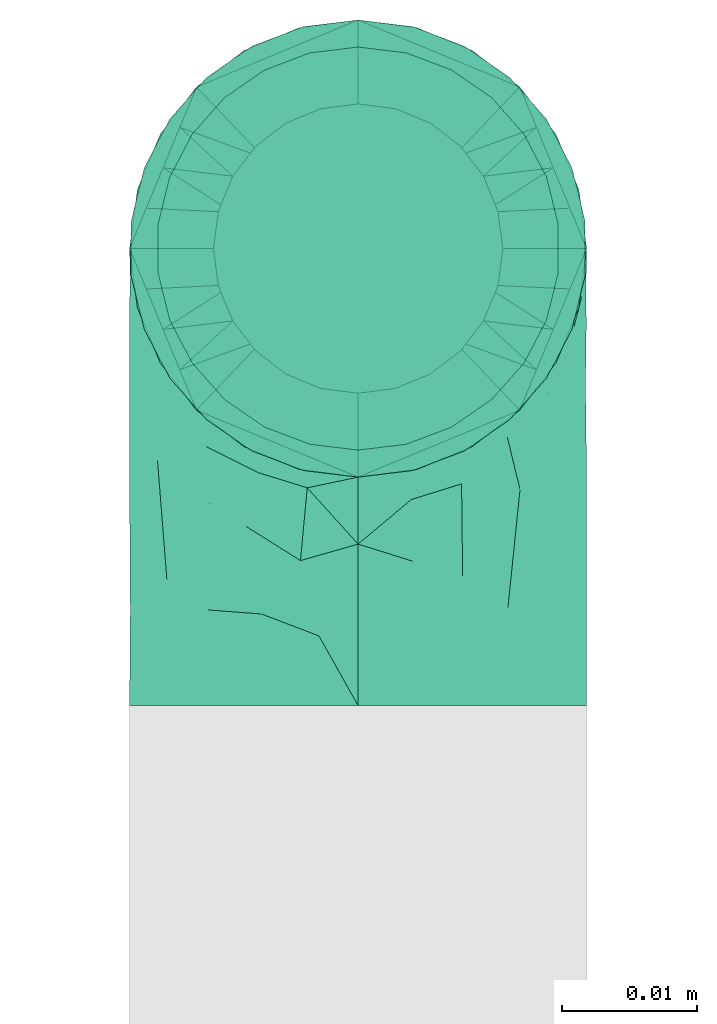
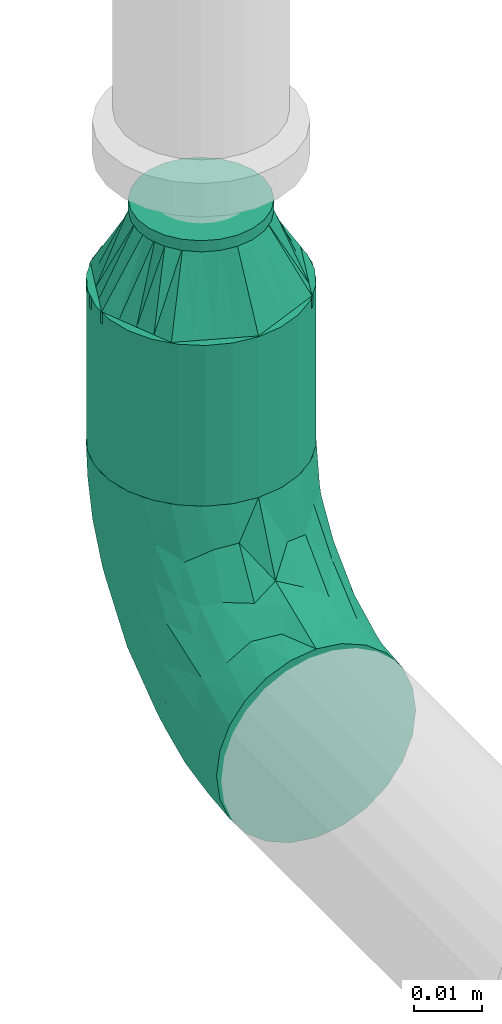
# One storey, part 18 of 31: 2 flow fittings, 1 flow segment.
"""IFC2X3 building model written with IfcOpenShell, lengths in millimetres."""

from ifc_helpers import new_model, entity, si_unit, converted_unit, derived_unit, direction, frame, origin_with_axes, origin_2d_with_axis, place, context, subcontext, project, spatial, hollow_circle, extrude, open_shell, surface_model, source, transform, mapped, type_object, element, save


model = new_model("IFC2X3")

# Units and contexts
model_context = context("Model", 3, precision=0.01, world=frame((0.0, 4.29681676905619e-09, 0.0)), true_north=direction((4.01073788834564e-13, 1.0)))
plan_context = context("Plan", 3, precision=0.01, world=frame((0.0, 4.29681676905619e-09, 0.0)), true_north=direction((4.01073788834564e-13, 1.0)))
body_context = subcontext(model_context, "Body", "Model", "MODEL_VIEW")
ifc_project = project(units=[converted_unit("PLANEANGLEUNIT", "DEGREE", entity("IfcPositiveLengthMeasure", 0.0174532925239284), si_unit("PLANEANGLEUNIT", "RADIAN"), dimensions=[0, 0, 0, 0, 0, 0, 0]), si_unit("AREAUNIT", "SQUARE_METRE"), si_unit("LENGTHUNIT", "METRE", prefix="MILLI"), si_unit("MASSUNIT", "GRAM", prefix="KILO"), si_unit("POWERUNIT", "WATT"), si_unit("PRESSUREUNIT", "PASCAL", prefix="KILO"), si_unit("FORCEUNIT", "NEWTON", prefix="KILO"), si_unit("ELECTRICVOLTAGEUNIT", "VOLT"), si_unit("ELECTRICCURRENTUNIT", "AMPERE"), si_unit("THERMODYNAMICTEMPERATUREUNIT", "DEGREE_CELSIUS"), si_unit("TIMEUNIT", "SECOND"), si_unit("VOLUMEUNIT", "CUBIC_METRE"), derived_unit("LINEARVELOCITYUNIT", [(si_unit("LENGTHUNIT", "METRE"), 1), (si_unit("TIMEUNIT", "SECOND"), -1)]), derived_unit("VOLUMETRICFLOWRATEUNIT", [(si_unit("VOLUMEUNIT", "CUBIC_METRE"), 1), (si_unit("TIMEUNIT", "SECOND"), -1)]), derived_unit("THERMALTRANSMITTANCEUNIT", [(si_unit("POWERUNIT", "WATT"), 1), (si_unit("THERMODYNAMICTEMPERATUREUNIT", "KELVIN"), -1), (si_unit("AREAUNIT", "SQUARE_METRE"), -1)]), derived_unit("SOUNDPRESSUREUNIT", [(si_unit("PRESSUREUNIT", "PASCAL"), 1)])], contexts=[model_context, plan_context])

# Site, building, storey
site_placement = place(None, frame((0.0, -4.29681676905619e-09, 0.0), z_axis=(0.0, 0.0, 1.0), x_axis=(1.0, 0.0, 0.0)))
site = spatial("IfcSite", under=ifc_project, at=site_placement, CompositionType="ELEMENT")
building_placement = place(site_placement, frame((0.0, 4.29681676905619e-09, 0.0), z_axis=(0.0, 0.0, 1.0), x_axis=(1.0, 0.0, 0.0)))
building = spatial("IfcBuilding", under=site, at=building_placement, Name="mc-building", CompositionType="ELEMENT")
storey_placement = place(building_placement, frame((0.0, 0.0, 200300.0), z_axis=(0.0, 0.0, 1.0), x_axis=(1.0, 0.0, 0.0)))
storey = spatial("IfcBuildingStorey", under=building, at=storey_placement, Name="Nivå C", CompositionType="ELEMENT", Elevation=200300.0)

# Flow fittings
pipe_fitting_type_1 = type_object("IfcPipeFittingType", Name="magi_pipe_fe_reducer_centric_short_NOR", PredefinedType="TRANSITION")
shared_shape_1 = source(origin_with_axes(), body_context, "Body", "SurfaceModel", [
    surface_model("IfcShellBasedSurfaceModel", [(14.4, 5.35, -9.26647), (14.4, 0.0, -10.7), (14.4, 2.76936, -10.33541), (14.4, 10.33541, -2.76936), (14.4, 7.56604, -7.56604), (14.4, -10.33541, -2.76936), (14.4, 9.26647, -5.35), (14.4, 0.0, 10.7), (14.4, -5.35, -9.26647), (14.4, -2.76936, -10.33541), (14.4, -7.56604, -7.56604), (14.4, -9.26647, -5.35), (14.4, 10.7, 0.0), (14.4, 10.33541, 2.76936), (14.4, 9.26647, 5.35), (14.4, 7.56604, 7.56604), (14.4, 2.76936, 10.33541), (14.4, 5.35, 9.26647), (14.4, -10.33541, 2.76936), (14.4, -7.56604, 7.56604), (14.4, -9.26647, 5.35), (14.4, -10.7, 0.0), (14.4, -2.76936, 10.33541), (14.4, -5.35, 9.26647), (12.4, 2.76936, 10.33541), (12.4, -10.33541, -2.76936), (12.4, 0.0, 10.7), (12.4, 5.35, 9.26647), (12.4, 7.56604, 7.56604), (12.4, 9.26647, 5.35), (12.4, 10.33541, 2.76936), (12.4, -10.33541, 2.76936), (12.4, -2.76936, 10.33541), (12.4, -7.56604, 7.56604), (12.4, -5.35, 9.26647), (12.4, -9.26647, 5.35), (12.4, -10.7, 0.0), (12.4, 10.33541, -2.76936), (12.4, 5.35, -9.26647), (12.4, 9.26647, -5.35), (12.4, 7.56604, -7.56604), (12.4, 2.76936, -10.33541), (12.4, -9.26647, -5.35), (12.4, -5.35, -9.26647), (12.4, -7.56604, -7.56604), (12.4, 0.0, -10.7), (12.4, -2.76936, -10.33541), (12.4, 10.7, 0.0), (-2.0, 11.9501, 11.9501), (-2.0, 0.0, 16.9), (-2.0, 4.37404, 16.32415), (-2.0, 8.45, 14.63583), (-2.0, 14.63583, 8.45), (-2.0, 16.32415, 4.37404), (-2.0, -16.32415, 4.37404), (-2.0, -8.45, 14.63583), (-2.0, -14.63583, 8.45), (-2.0, -11.9501, 11.9501), (-2.0, -4.37404, 16.32415), (-2.0, -16.32415, -4.37404), (-2.0, -16.9, 0.0), (-2.0, -8.45, -14.63583), (-2.0, 16.32415, -4.37404), (-2.0, 11.9501, -11.9501), (-2.0, 14.63583, -8.45), (-2.0, 8.45, -14.63583), (-2.0, 4.37404, -16.32415), (-2.0, 0.0, -16.9), (-2.0, -11.9501, -11.9501), (-2.0, -14.63583, -8.45), (-2.0, -4.37404, -16.32415), (-2.0, 16.9, 0.0), (0.0, 4.37404, -16.32415), (0.0, 8.45, -14.63583), (0.0, 11.9501, -11.9501), (0.0, 0.0, -16.9), (0.0, 16.32415, -4.37404), (0.0, 16.32415, 4.37404), (0.0, 14.63583, -8.45), (0.0, -8.45, -14.63583), (0.0, -4.37404, -16.32415), (0.0, -11.9501, -11.9501), (0.0, -16.32415, -4.37404), (0.0, -14.63583, -8.45), (0.0, -16.32415, 4.37404), (0.0, 16.9, 0.0), (0.0, 14.63583, 8.45), (0.0, 11.9501, 11.9501), (0.0, 4.37404, 16.32415), (0.0, 8.45, 14.63583), (0.0, 0.0, 16.9), (0.0, -14.63583, 8.45), (0.0, -16.9, 0.0), (0.0, -8.45, 14.63583), (0.0, -11.9501, 11.9501), (0.0, -4.37404, 16.32415), (12.4, 9.3625, -2.31662), (0.0, 14.42505, -5.97505), (0.0, 15.66253, -2.98753), (12.4, -6.6875, -6.94985), (0.0, -13.18758, -8.96258), (0.0, 2.98753, -15.66253), (12.4, 0.0, -9.26647), (12.4, 6.6875, -6.94985), (0.0, 8.96258, -13.18758), (12.4, -9.3625, -2.31662), (0.0, -15.66253, -2.98753), (0.0, -14.42505, -5.97505), (0.0, 5.97505, -14.42505), (0.0, -2.98753, -15.66253), (0.0, -8.96258, -13.18758), (0.0, 13.18758, -8.96258), (12.4, 8.025, -4.63324), (12.4, -2.675, -9.26647), (12.4, 2.675, -9.26647), (0.0, -5.97505, -14.42505), (12.4, -8.025, -4.63324), (12.4, -9.3625, 2.31662), (0.0, -14.42505, 5.97505), (0.0, -15.66253, 2.98753), (12.4, 6.6875, 6.94985), (0.0, 13.18758, 8.96258), (0.0, -2.98753, 15.66253), (12.4, 0.0, 9.26647), (12.4, -6.6875, 6.94985), (0.0, -8.96258, 13.18758), (12.4, 9.3625, 2.31662), (0.0, 15.66253, 2.98753), (0.0, 14.42505, 5.97505), (0.0, -5.97505, 14.42505), (0.0, 2.98753, 15.66253), (0.0, 8.96258, 13.18758), (0.0, -13.18758, 8.96258), (12.4, -8.025, 4.63324), (12.4, 2.675, 9.26647), (12.4, -2.675, 9.26647), (0.0, 5.97505, 14.42505), (12.4, 8.025, 4.63324)], [open_shell([[[0, 1, 2]], [[3, 0, 4]], [[5, 0, 3]], [[3, 4, 6]], [[7, 5, 3]], [[1, 8, 9]], [[1, 0, 8]], [[10, 5, 11]], [[5, 10, 8]], [[0, 5, 8]], [[3, 12, 13]], [[13, 14, 15]], [[13, 15, 16]], [[7, 3, 16]], [[16, 15, 17]], [[7, 18, 5]], [[18, 19, 20]], [[21, 5, 18]], [[19, 22, 23]], [[22, 19, 18]], [[7, 22, 18]], [[13, 16, 3]], [[24, 25, 26]], [[27, 25, 24]], [[28, 29, 30]], [[28, 25, 27]], [[31, 26, 25]], [[32, 33, 34]], [[33, 32, 31]], [[33, 31, 35]], [[32, 26, 31]], [[31, 25, 36]], [[30, 37, 28]], [[25, 28, 37]], [[38, 37, 39]], [[37, 38, 25]], [[38, 39, 40]], [[41, 25, 38]], [[42, 43, 44]], [[43, 42, 25]], [[43, 45, 46]], [[43, 25, 41]], [[41, 45, 43]], [[37, 30, 47]], [[25, 5, 36]], [[42, 11, 25]], [[8, 44, 43]], [[42, 44, 10]], [[9, 43, 46]], [[25, 11, 5]], [[5, 21, 36]], [[9, 8, 43]], [[10, 44, 8]], [[10, 11, 42]], [[1, 9, 46]], [[46, 45, 1]], [[41, 2, 45]], [[38, 0, 41]], [[6, 40, 39]], [[38, 40, 4]], [[3, 39, 37]], [[38, 4, 0]], [[0, 2, 41]], [[12, 3, 37]], [[6, 39, 3]], [[6, 4, 40]], [[47, 12, 37]], [[45, 2, 1]], [[30, 13, 47]], [[29, 14, 30]], [[17, 28, 27]], [[29, 28, 15]], [[16, 27, 24]], [[30, 14, 13]], [[13, 12, 47]], [[16, 17, 27]], [[15, 28, 17]], [[15, 14, 29]], [[7, 16, 24]], [[24, 26, 7]], [[32, 22, 26]], [[34, 23, 32]], [[20, 33, 35]], [[34, 33, 19]], [[18, 35, 31]], [[34, 19, 23]], [[23, 22, 32]], [[21, 18, 31]], [[20, 35, 18]], [[20, 19, 33]], [[36, 21, 31]], [[26, 22, 7]], [[48, 49, 50]], [[48, 50, 51]], [[48, 52, 53]], [[48, 53, 49]], [[49, 53, 54]], [[55, 56, 57]], [[55, 58, 49]], [[56, 55, 49]], [[49, 54, 56]], [[54, 59, 60]], [[54, 53, 61]], [[53, 62, 63]], [[63, 62, 64]], [[63, 65, 66]], [[61, 53, 63]], [[67, 63, 66]], [[59, 68, 69]], [[68, 59, 61]], [[61, 67, 70]], [[59, 54, 61]], [[63, 67, 61]], [[53, 71, 62]], [[72, 73, 74]], [[75, 72, 74]], [[74, 76, 77]], [[76, 74, 78]], [[74, 77, 79]], [[75, 79, 80]], [[75, 74, 79]], [[81, 82, 83]], [[82, 81, 79]], [[79, 84, 82]], [[77, 76, 85]], [[77, 86, 87]], [[77, 87, 88]], [[88, 84, 79]], [[88, 87, 89]], [[84, 88, 90]], [[90, 91, 84]], [[92, 82, 84]], [[91, 93, 94]], [[91, 90, 93]], [[93, 90, 95]], [[79, 77, 88]], [[59, 82, 60]], [[69, 83, 59]], [[79, 68, 61]], [[69, 68, 81]], [[80, 61, 70]], [[59, 83, 82]], [[82, 92, 60]], [[80, 79, 61]], [[81, 68, 79]], [[81, 83, 69]], [[75, 80, 70]], [[70, 67, 75]], [[66, 72, 67]], [[65, 73, 66]], [[78, 63, 64]], [[65, 63, 74]], [[76, 64, 62]], [[65, 74, 73]], [[73, 72, 66]], [[85, 76, 62]], [[78, 64, 76]], [[78, 74, 63]], [[71, 85, 62]], [[67, 72, 75]], [[53, 77, 71]], [[52, 86, 53]], [[89, 48, 51]], [[52, 48, 87]], [[88, 51, 50]], [[53, 86, 77]], [[77, 85, 71]], [[88, 89, 51]], [[87, 48, 89]], [[87, 86, 52]], [[90, 88, 50]], [[50, 49, 90]], [[58, 95, 49]], [[55, 93, 58]], [[91, 57, 56]], [[55, 57, 94]], [[84, 56, 54]], [[55, 94, 93]], [[93, 95, 58]], [[92, 84, 54]], [[91, 56, 84]], [[91, 94, 57]], [[60, 92, 54]], [[49, 95, 90]], [[27, 34, 47]], [[47, 34, 43]], [[43, 38, 47]], [[43, 34, 36]], [[90, 87, 94]], [[92, 94, 87]], [[87, 74, 92]], [[75, 92, 74]], [[81, 92, 75]], [[74, 87, 85]], [[96, 97, 98]], [[81, 99, 100]], [[101, 102, 75]], [[98, 85, 47]], [[74, 103, 104]], [[104, 103, 38]], [[105, 106, 107]], [[38, 108, 104]], [[102, 109, 75]], [[110, 99, 81]], [[47, 96, 98]], [[103, 111, 112]], [[109, 102, 113]], [[36, 92, 106]], [[102, 101, 114]], [[110, 115, 43]], [[96, 112, 97]], [[107, 116, 105]], [[36, 106, 105]], [[113, 115, 109]], [[43, 115, 113]], [[116, 107, 100]], [[108, 38, 114]], [[111, 103, 74]], [[111, 97, 112]], [[99, 110, 43]], [[116, 100, 99]], [[101, 108, 114]], [[117, 118, 119]], [[87, 120, 121]], [[122, 123, 90]], [[119, 92, 36]], [[94, 124, 125]], [[125, 124, 34]], [[126, 127, 128]], [[34, 129, 125]], [[123, 130, 90]], [[131, 120, 87]], [[36, 117, 119]], [[124, 132, 133]], [[130, 123, 134]], [[47, 85, 127]], [[123, 122, 135]], [[131, 136, 27]], [[117, 133, 118]], [[128, 137, 126]], [[47, 127, 126]], [[134, 136, 130]], [[27, 136, 134]], [[137, 128, 121]], [[129, 34, 135]], [[132, 124, 94]], [[132, 118, 133]], [[120, 131, 27]], [[137, 121, 120]], [[122, 129, 135]]])]),
])
flow_fitting_1_placement = place(storey_placement, frame((604902.03234, 403933.19532, 2962.64799999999), z_axis=(-1.0, 0.0, 0.0), x_axis=(0.0, 0.0, 1.0)))
element("IfcFlowFitting", 1, at=flow_fitting_1_placement, inside=storey, type_object=pipe_fitting_type_1, Name="magi_pipe_fe_reducer_centric_short_NOR", context=body_context, shape_type="MappedRepresentation", body=[
    mapped(shared_shape_1, transform((0.0, 0.0, 0.0), scale=1.0)),
])
pipe_fitting_type_2 = type_object("IfcPipeFittingType", Name="magi_pipe_fe_elbow_short_001", PredefinedType="BEND")
shared_shape_2 = source(origin_with_axes(), body_context, "Body", "SurfaceModel", [
    surface_model("IfcShellBasedSurfaceModel", [(-33.8, 8.45, -14.63583), (-33.8, 4.37404, -16.32415), (-33.8, 11.9501, -11.9501), (-33.8, -11.9501, -11.9501), (-33.8, -14.63583, -8.45), (-33.8, -8.45, -14.63583), (-33.8, 0.0, -16.9), (-33.8, -4.37404, -16.32415), (-33.8, -4.37404, 16.32415), (-33.8, 0.0, 16.9), (-33.8, -8.45, 14.63583), (-33.8, 16.32415, -4.37404), (-33.8, 14.63583, -8.45), (-33.8, -16.32415, -4.37404), (-33.8, -16.9, 0.0), (-33.8, -16.32415, 4.37404), (-33.8, 11.9501, 11.9501), (-33.8, 14.63583, 8.45), (-33.8, 16.32415, 4.37404), (-33.8, 4.37404, 16.32415), (-33.8, 8.45, 14.63583), (-33.8, -14.63583, 8.45), (-33.8, -11.9501, 11.9501), (-33.8, 16.9, 0.0), (-11.9501, 33.8, -11.9501), (0.0, 33.8, -16.9), (-4.37404, 33.8, -16.32415), (-8.45, 33.8, -14.63583), (-14.63583, 33.8, -8.45), (-16.32415, 33.8, -4.37404), (14.63583, 33.8, -8.45), (8.45, 33.8, 14.63583), (16.32415, 33.8, -4.37404), (8.45, 33.8, -14.63583), (11.9501, 33.8, -11.9501), (4.37404, 33.8, -16.32415), (16.32415, 33.8, 4.37404), (16.9, 33.8, 0.0), (-11.9501, 33.8, 11.9501), (-16.32415, 33.8, 4.37404), (-14.63583, 33.8, 8.45), (-8.45, 33.8, 14.63583), (-4.37404, 33.8, 16.32415), (11.9501, 33.8, 11.9501), (14.63583, 33.8, 8.45), (0.0, 33.8, 16.9), (4.37404, 33.8, 16.32415), (-16.9, 33.8, 0.0), (-24.79389, -13.12945, 9.48721), (-22.19287, -9.75018, 12.59315), (-24.09897, -14.97035, 0.0), (-14.93934, -10.76256, 8.5297), (-22.46095, -14.75051, 5.27077), (14.75051, 22.46094, 5.27077), (11.9251, 13.23888, 4.33236), (13.04069, 14.39795, 0.0), (7.71387, 13.68847, 11.55891), (9.75018, 22.19287, 12.59315), (4.10169, 13.0571, 14.04018), (-24.84007, -6.39063, 15.2048), (-25.81779, -2.23879, 16.61097), (-23.66549, 2.59054, 16.87119), (-26.50418, 14.06512, 11.08152), (-24.21253, 17.66365, 7.72657), (-29.58514, 15.86957, 7.00283), (-6.17382, -7.5455, 0.0), (-13.23888, -11.9251, 4.33236), (-14.39795, -13.04069, 0.0), (-17.81434, 18.87373, 11.97104), (-6.30846, 29.15138, 15.82987), (-2.31622, 25.28002, 16.85849), (-29.23923, 10.23435, 13.77053), (-1.45439, -2.85688, 7.61475), (-0.28326, 0.34872, 10.09509), (-5.74484, -4.04709, 10.4122), (-4.41137, 11.31918, 16.59407), (-8.39727, 3.10034, 15.7812), (-1.72649, 9.1306, 15.53089), (-17.39909, 24.75344, 7.64977), (-26.19233, 20.0512, 0.0), (-28.14518, 17.29657, 4.25857), (-26.05147, 6.6281, 15.96447), (-5.87354, 16.61944, 16.86968), (-12.51807, 12.51807, 16.48937), (-10.06312, 7.38516, 16.81295), (-3.01882, 3.01882, 13.81718), (-13.0571, -4.10169, 14.04018), (-16.82553, -0.15166, 16.38038), (10.76256, 14.93934, 8.5297), (13.12945, 24.79389, 9.48721), (6.39063, 24.84007, 15.2048), (2.23879, 25.81779, 16.61097), (-13.68847, -7.71387, 11.55891), (14.97035, 24.09897, 0.0), (-7.30894, 22.89991, 16.09489), (-10.67958, 26.17414, 14.008), (-12.78295, 18.26924, 15.06066), (-13.88562, 22.45231, 12.93244), (-18.04944, 15.16501, 14.04434), (-23.11658, 20.08178, 4.02986), (-21.84989, 21.84989, 0.0), (-18.55817, 25.48277, 3.93065), (-13.95142, 26.94732, 11.03289), (-18.57098, 7.23906, 16.59756), (-16.58335, 4.14122, 16.89279), (-17.96666, 11.46709, 15.63151), (-9.84453, 17.54304, 16.18938), (0.15166, 16.82553, 16.38038), (-23.27207, 11.47201, 14.23154), (3.84842, 5.86994, 10.70473), (-8.0212, -7.54413, 7.93275), (1.00345, -2.19508, 4.57414), (5.13203, 3.01004, 5.90201), (5.24161, 1.7543, 2.53265), (8.70457, 7.04947, 3.99182), (-20.0512, 26.19233, 0.0), (8.4852, 8.76699, 7.09296), (-4.55488, -6.72064, 4.90681), (2.05031, -2.05031, 0.0), (7.5455, 6.17382, 0.0), (-26.75399, 2.1369, -16.845), (-14.61995, 24.73803, -11.27736), (-28.45274, -13.45335, -9.81895), (-26.00469, 6.63555, -15.96645), (-23.06726, 20.04573, -4.26202), (-13.80647, -4.26506, -14.17873), (-14.67501, -0.21081, -16.07388), (-6.7902, -0.2828, -13.8478), (-24.53586, 11.08096, -14.13417), (-26.72048, 14.00837, -11.05776), (10.0967, 24.44989, -12.75976), (5.83237, 21.40218, -15.03047), (6.66249, 28.54238, -15.38093), (-20.38182, 15.48705, -12.74596), (12.53268, 21.23441, -9.15363), (12.54494, 15.67504, -5.54878), (9.7522, 12.89279, -8.66343), (-15.65186, 19.64213, -13.01327), (-12.03528, 20.66498, -14.67665), (-15.61907, 15.61906, -14.83879), (-25.56551, -15.26206, 0.0), (-24.65452, -15.12934, -5.50955), (13.45335, 28.45274, -9.81895), (15.12934, 24.65452, -5.50955), (-7.35442, -8.31014, -5.65563), (-15.67504, -12.54494, -5.54878), (-24.44989, -10.0967, -12.75976), (0.16522, 0.41303, -9.71728), (-5.70658, -5.33066, -8.89288), (-5.13869, -2.37198, -11.53565), (-21.23441, -12.53268, -9.15363), (0.71146, 7.93863, -14.09382), (0.21081, 14.67501, -16.07388), (3.49291, 14.42772, -14.76381), (-24.89911, -2.13088, -16.591), (-28.54238, -6.66249, -15.38093), (-18.44386, -7.71663, -13.26957), (2.13088, 24.89911, -16.591), (-28.64342, 17.44413, -2.89318), (1.70017, -1.28722, -5.09504), (-16.57067, 26.81947, -7.36596), (-17.69055, 27.4263, -3.76405), (-12.89279, -9.7522, -8.66343), (-5.96611, 5.96611, -15.95814), (-20.53709, 20.09345, -8.28985), (-2.1369, 26.75399, -16.845), (-6.89872, 24.58781, -16.02578), (-10.60739, 26.53157, -13.98044), (-21.40218, -5.83237, -15.03047), (2.93192, 5.89627, -11.55917), (6.89393, 12.61842, -11.82233), (5.58056, 5.95325, -8.79455), (-3.99512, 18.61798, -16.89635), (8.31014, 7.35442, -5.65563), (-9.1383, 9.86148, -16.89041), (-9.99983, 16.02119, -16.39699), (-16.68576, 9.78031, -16.34199), (-27.01915, 16.61158, -7.12979), (15.26206, 25.56551, 0.0), (-18.61798, 3.99512, -16.89635), (-19.37495, 27.82495, 0.0), (-12.61842, -6.89393, -11.82233), (-18.84705, 19.14018, -10.96545)], [open_shell([[[0, 1, 2]], [[3, 4, 5]], [[6, 7, 5]], [[8, 9, 10]], [[1, 6, 2]], [[11, 12, 2]], [[4, 2, 6]], [[2, 13, 10]], [[5, 4, 6]], [[2, 4, 13]], [[14, 15, 13]], [[11, 2, 16]], [[11, 17, 18]], [[11, 16, 17]], [[19, 20, 16]], [[16, 2, 10]], [[19, 16, 10]], [[21, 22, 15]], [[22, 13, 15]], [[22, 10, 13]], [[10, 9, 19]], [[11, 18, 23]], [[24, 25, 26]], [[24, 26, 27]], [[24, 28, 29]], [[25, 24, 30]], [[31, 32, 24]], [[33, 30, 34]], [[33, 35, 25]], [[25, 30, 33]], [[32, 30, 24]], [[32, 36, 37]], [[38, 24, 29]], [[39, 40, 29]], [[40, 38, 29]], [[38, 41, 42]], [[38, 31, 24]], [[31, 38, 42]], [[36, 43, 44]], [[36, 32, 43]], [[31, 45, 46]], [[32, 31, 43]], [[42, 45, 31]], [[39, 29, 47]], [[22, 48, 49]], [[15, 14, 50]], [[51, 48, 52]], [[53, 54, 55]], [[48, 22, 21]], [[15, 52, 21]], [[56, 57, 58]], [[49, 10, 22]], [[49, 59, 10]], [[9, 60, 61]], [[62, 63, 64]], [[65, 66, 67]], [[57, 43, 31]], [[62, 68, 63]], [[42, 69, 70]], [[20, 71, 16]], [[8, 60, 9]], [[72, 73, 74]], [[75, 76, 77]], [[16, 62, 17]], [[40, 39, 78]], [[79, 23, 80]], [[64, 18, 17]], [[9, 61, 19]], [[19, 81, 20]], [[82, 83, 84]], [[74, 85, 86]], [[59, 86, 87]], [[88, 89, 57]], [[90, 31, 46]], [[44, 53, 36]], [[46, 45, 91]], [[54, 53, 88]], [[44, 89, 53]], [[92, 86, 49]], [[89, 44, 43]], [[10, 59, 8]], [[53, 55, 93]], [[93, 36, 53]], [[66, 52, 67]], [[94, 82, 70]], [[95, 96, 94]], [[97, 98, 96]], [[79, 99, 100]], [[41, 38, 95]], [[101, 100, 99]], [[68, 78, 63]], [[42, 41, 69]], [[23, 18, 80]], [[95, 94, 69]], [[78, 101, 99]], [[38, 102, 95]], [[70, 45, 42]], [[97, 95, 102]], [[15, 50, 52]], [[90, 57, 31]], [[57, 90, 58]], [[81, 19, 61]], [[103, 104, 84]], [[105, 81, 103]], [[38, 40, 102]], [[106, 96, 83]], [[94, 106, 82]], [[91, 70, 107]], [[71, 62, 16]], [[62, 108, 98]], [[86, 59, 49]], [[67, 52, 50]], [[60, 59, 87]], [[92, 49, 51]], [[86, 85, 76]], [[91, 90, 46]], [[37, 36, 93]], [[107, 77, 58]], [[107, 58, 90]], [[58, 85, 109]], [[110, 74, 92]], [[72, 74, 110]], [[66, 51, 52]], [[72, 111, 112]], [[113, 114, 112]], [[56, 88, 57]], [[52, 48, 21]], [[49, 48, 51]], [[57, 89, 43]], [[53, 89, 88]], [[103, 81, 61]], [[71, 81, 108]], [[18, 64, 80]], [[63, 78, 99]], [[47, 115, 101]], [[101, 115, 100]], [[40, 78, 102]], [[68, 102, 78]], [[97, 96, 95]], [[105, 98, 108]], [[103, 84, 83]], [[107, 70, 82]], [[76, 84, 87]], [[82, 84, 75]], [[70, 91, 45]], [[90, 91, 107]], [[59, 60, 8]], [[61, 60, 87]], [[73, 85, 74]], [[109, 112, 116]], [[103, 61, 104]], [[105, 103, 83]], [[96, 105, 83]], [[81, 105, 108]], [[96, 98, 105]], [[62, 98, 68]], [[61, 87, 104]], [[87, 84, 104]], [[86, 76, 87]], [[77, 76, 85]], [[58, 77, 85]], [[75, 77, 107]], [[82, 75, 107]], [[76, 75, 84]], [[81, 71, 20]], [[62, 71, 108]], [[95, 69, 41]], [[70, 69, 94]], [[62, 64, 17]], [[80, 63, 99]], [[63, 80, 64]], [[80, 99, 79]], [[66, 65, 117]], [[110, 66, 117]], [[112, 114, 116]], [[118, 117, 65]], [[110, 92, 51]], [[112, 111, 113]], [[119, 55, 54]], [[74, 86, 92]], [[58, 109, 56]], [[116, 56, 109]], [[66, 110, 51]], [[72, 110, 117]], [[111, 72, 117]], [[73, 112, 109]], [[117, 118, 111]], [[113, 111, 118]], [[118, 119, 113]], [[114, 119, 54]], [[119, 114, 113]], [[116, 54, 88]], [[54, 116, 114]], [[116, 88, 56]], [[112, 73, 72]], [[85, 73, 109]], [[78, 39, 101]], [[47, 101, 39]], [[102, 68, 97]], [[97, 68, 98]], [[82, 106, 83]], [[94, 96, 106]], [[1, 120, 6]], [[28, 24, 121]], [[3, 122, 4]], [[0, 123, 1]], [[100, 124, 79]], [[125, 126, 127]], [[128, 2, 129]], [[130, 131, 132]], [[128, 129, 133]], [[134, 135, 136]], [[137, 138, 139]], [[128, 0, 2]], [[67, 140, 141]], [[134, 142, 143]], [[141, 13, 4]], [[144, 65, 145]], [[146, 3, 5]], [[147, 148, 149]], [[145, 141, 150]], [[151, 152, 153]], [[154, 7, 6]], [[5, 155, 146]], [[150, 146, 156]], [[155, 5, 7]], [[143, 135, 134]], [[35, 157, 25]], [[23, 79, 158]], [[148, 159, 144]], [[160, 161, 29]], [[145, 162, 144]], [[163, 152, 151]], [[29, 28, 160]], [[121, 164, 160]], [[33, 34, 130]], [[25, 165, 26]], [[26, 165, 166]], [[142, 34, 30]], [[24, 27, 167]], [[124, 161, 164]], [[157, 35, 132]], [[155, 154, 168]], [[123, 0, 128]], [[169, 170, 171]], [[172, 157, 152]], [[26, 166, 27]], [[132, 35, 33]], [[142, 130, 34]], [[168, 154, 126]], [[136, 135, 173]], [[133, 137, 139]], [[2, 12, 129]], [[170, 131, 130]], [[30, 32, 143]], [[172, 174, 175]], [[176, 123, 128]], [[158, 177, 11]], [[135, 55, 119]], [[167, 27, 166]], [[175, 166, 172]], [[137, 167, 138]], [[122, 141, 4]], [[140, 14, 13]], [[32, 37, 178]], [[170, 130, 134]], [[152, 157, 131]], [[165, 157, 172]], [[153, 170, 151]], [[152, 163, 174]], [[168, 125, 156]], [[122, 146, 150]], [[120, 154, 6]], [[179, 174, 126]], [[179, 126, 154]], [[126, 163, 127]], [[162, 145, 150]], [[140, 13, 141]], [[32, 178, 143]], [[55, 143, 178]], [[177, 129, 12]], [[128, 133, 139]], [[176, 128, 139]], [[120, 123, 179]], [[121, 160, 28]], [[161, 100, 180]], [[166, 175, 138]], [[121, 24, 167]], [[161, 47, 29]], [[79, 124, 158]], [[124, 164, 177]], [[161, 124, 100]], [[136, 171, 170]], [[127, 163, 151]], [[147, 171, 159]], [[148, 144, 162]], [[127, 151, 169]], [[127, 181, 125]], [[129, 177, 164]], [[12, 11, 177]], [[159, 65, 144]], [[67, 141, 145]], [[143, 55, 135]], [[135, 119, 173]], [[123, 120, 1]], [[154, 120, 179]], [[157, 165, 25]], [[166, 165, 172]], [[172, 152, 174]], [[176, 139, 175]], [[126, 174, 163]], [[176, 174, 179]], [[174, 176, 175]], [[123, 176, 179]], [[150, 181, 162]], [[127, 149, 181]], [[181, 148, 162]], [[159, 148, 147]], [[171, 136, 173]], [[170, 134, 136]], [[159, 171, 173]], [[171, 147, 169]], [[169, 147, 149]], [[151, 170, 169]], [[164, 182, 129]], [[182, 121, 137]], [[181, 149, 148]], [[169, 149, 127]], [[182, 137, 133]], [[167, 137, 121]], [[166, 138, 167]], [[175, 139, 138]], [[129, 182, 133]], [[121, 182, 164]], [[161, 160, 164]], [[47, 161, 180]], [[177, 158, 124]], [[23, 158, 11]], [[130, 132, 33]], [[157, 132, 131]], [[143, 142, 30]], [[130, 142, 134]], [[154, 155, 7]], [[146, 155, 168]], [[146, 122, 3]], [[141, 122, 150]], [[152, 131, 153]], [[159, 119, 118]], [[67, 145, 65]], [[170, 153, 131]], [[119, 159, 173]], [[159, 118, 65]], [[156, 125, 181]], [[126, 125, 168]], [[150, 156, 181]], [[168, 156, 146]]])]),
])
flow_fitting_2_placement = place(storey_placement, frame((604902.03234, 403933.19532, 2900.0), z_axis=(1.0, 0.0, 0.0), x_axis=(0.0, 1.0, 0.0)))
element("IfcFlowFitting", 2, at=flow_fitting_2_placement, inside=storey, type_object=pipe_fitting_type_2, Name="magi_pipe_fe_elbow_short_001", context=body_context, shape_type="MappedRepresentation", body=[
    mapped(shared_shape_2, transform((0.0, 0.0, 0.0), scale=1.0)),
])

# Flow segment
pipe_segment_type = type_object("IfcPipeSegmentType", Name="Stålrør normaltykke", PredefinedType="RIGIDSEGMENT")
shared_shape_3 = source(origin_with_axes(), body_context, "Body", "SweptSolid", [
    extrude(hollow_circle(Radius=16.9, WallThickness=2.0, at=origin_2d_with_axis()), frame((0.0, 0.0, 0.0), z_axis=(1.0, 0.0, 0.0), x_axis=(0.0, 1.0, 0.0)), (0.0, 0.0, 1.0), 28.8),
])
flow_segment_placement = place(storey_placement, frame((604902.03234, 403933.19532, 2933.79999999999), z_axis=(-1.0, 0.0, 0.0), x_axis=(0.0, 0.0, 1.0)))
element("IfcFlowSegment", 3, at=flow_segment_placement, inside=storey, type_object=pipe_segment_type, Name="Stålrør normaltykke", context=body_context, shape_type="MappedRepresentation", body=[
    mapped(shared_shape_3, transform((0.0, 0.0, 0.0), scale=1.0)),
])

save(model, "model.ifc")
